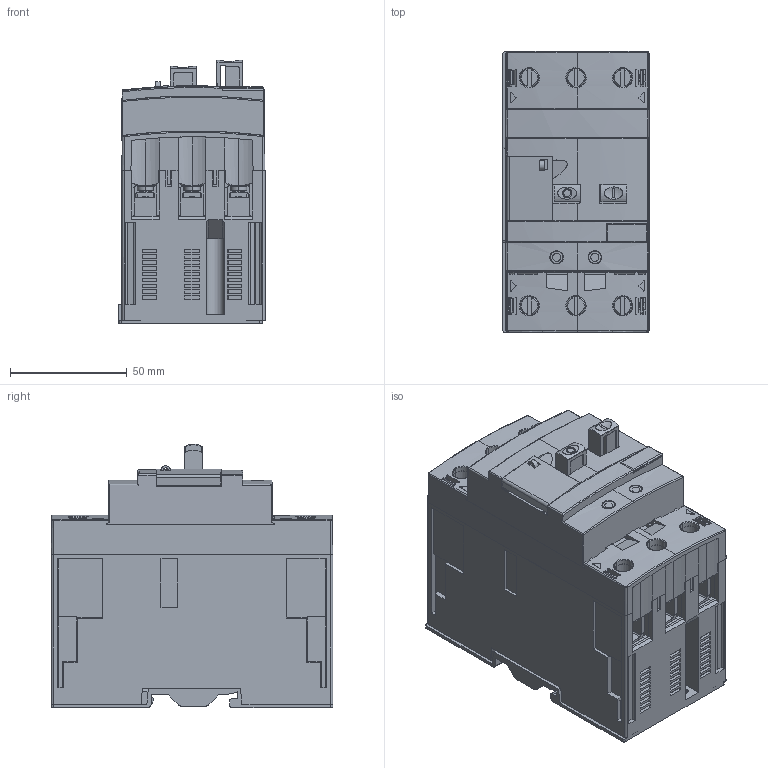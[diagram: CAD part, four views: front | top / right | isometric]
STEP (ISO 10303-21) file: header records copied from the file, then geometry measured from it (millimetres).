
FILE_DESCRIPTION (( 'STEP AP214' ), '1' );
FILE_NAME ('TGD1-80.STEP', '2025-12-19T10:56:30', ( '' ), ( '' ), 'SwSTEP 2.0', 'SolidWorks 2024', '' );
FILE_SCHEMA (( 'AUTOMOTIVE_DESIGN' ));
Length unit declared in the file: millimetre
Products named in the file (3): 80ZONGZHUANG_SW0001_1_1.stp; TGD1-80.stp; TGD1-80
Assembly tree (2 placements, depth 3):
  TGD1-80
    TGD1-80.stp
      80ZONGZHUANG_SW0001_1_1.stp
Bounding box: 62.62 x 120.61 x 112.91 mm (x, y, z)
Volume: 356382.2 mm3; surface area: 209894.7 mm2
Topology: 1 solids, 1 shells, 4438 faces, 12637 edges, 8145 vertices
Faces by surface type: plane 3426, cylinder 807, bspline 78, cone 72, torus 51, sphere 4
Entity records: 159959 total; most frequent: CARTESIAN_POINT 45053, ORIENTED_EDGE 25248, DIRECTION 21962, EDGE_CURVE 12624, VECTOR 9940, LINE 9940, VERTEX_POINT 8141, AXIS2_PLACEMENT_3D 6011
